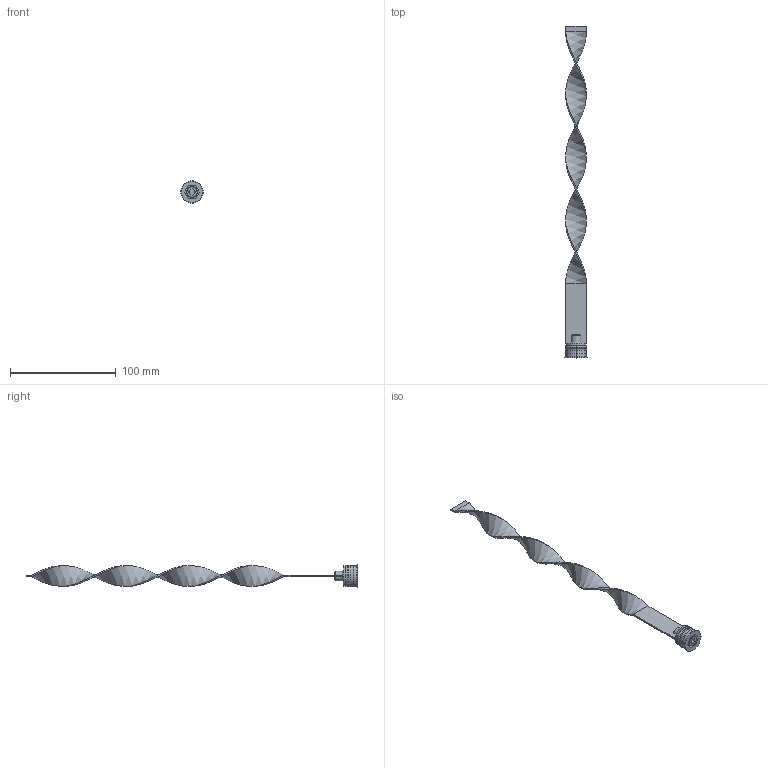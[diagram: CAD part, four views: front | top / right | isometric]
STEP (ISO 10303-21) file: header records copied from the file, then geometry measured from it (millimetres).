
FILE_DESCRIPTION (( 'STEP AP203' ), '1' );
FILE_NAME ('RLS20Fx300-19,5.STEP', '2015-12-10T14:31:21', ( 'Balzi' ), ( '' ), 'SwSTEP 2.0', 'SolidWorks 2015', '' );
FILE_SCHEMA (( 'CONFIG_CONTROL_DESIGN' ));
Length unit declared in the file: millimetre
Products named in the file (1): RLS20Fx300-19,5
Bounding box: 21.5 x 314 x 21.5 mm (x, y, z)
Volume: 13241.6 mm3; surface area: 15275 mm2
Topology: 1 solids, 1 shells, 83 faces, 193 edges, 117 vertices
Faces by surface type: plane 35, cone 19, cylinder 17, torus 8, bspline 4
Entity records: 4141 total; most frequent: CARTESIAN_POINT 2176, DIRECTION 406, ORIENTED_EDGE 386, EDGE_CURVE 193, AXIS2_PLACEMENT_3D 151, VERTEX_POINT 117, VECTOR 104, LINE 104
